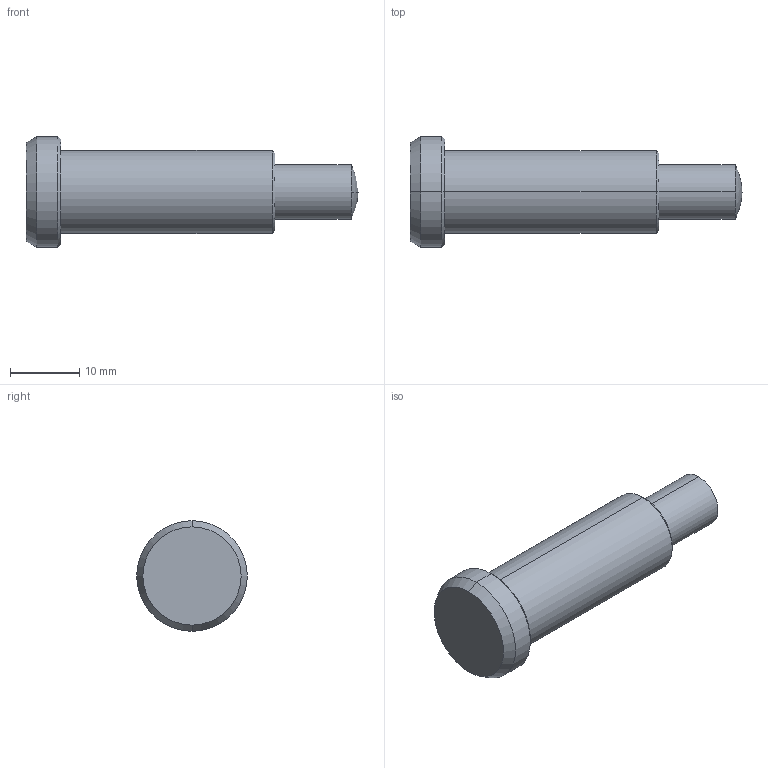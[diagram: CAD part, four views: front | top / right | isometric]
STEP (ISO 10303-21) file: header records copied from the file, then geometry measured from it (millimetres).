
FILE_DESCRIPTION (( 'STEP AP214' ), '1' );
FILE_NAME ('614.6-12-K.step', '2022-01-17T12:56:17', ( '' ), ( '' ), 'SwSTEP 2.0', 'SolidWorks 2019', '' );
FILE_SCHEMA (( 'AUTOMOTIVE_DESIGN' ));
Length unit declared in the file: millimetre
Products named in the file (3): WB614.6_Führung^WB614.6_12; 614.6-12-K; WB614.6_Bolzen^WB614.6_12
Assembly tree (2 placements, depth 2):
  614.6-12-K
    WB614.6_Führung^WB614.6_12
    WB614.6_Bolzen^WB614.6_12
Bounding box: 48 x 16 x 16 mm (x, y, z)
Volume: 4621.2 mm3; surface area: 2686.5 mm2
Topology: 2 solids, 2 shells, 27 faces, 52 edges, 33 vertices
Faces by surface type: cylinder 12, plane 7, cone 6, sphere 2
Entity records: 810 total; most frequent: DIRECTION 150, CARTESIAN_POINT 117, ORIENTED_EDGE 104, AXIS2_PLACEMENT_3D 66, EDGE_CURVE 52, CIRCLE 34, VERTEX_POINT 33, EDGE_LOOP 31
